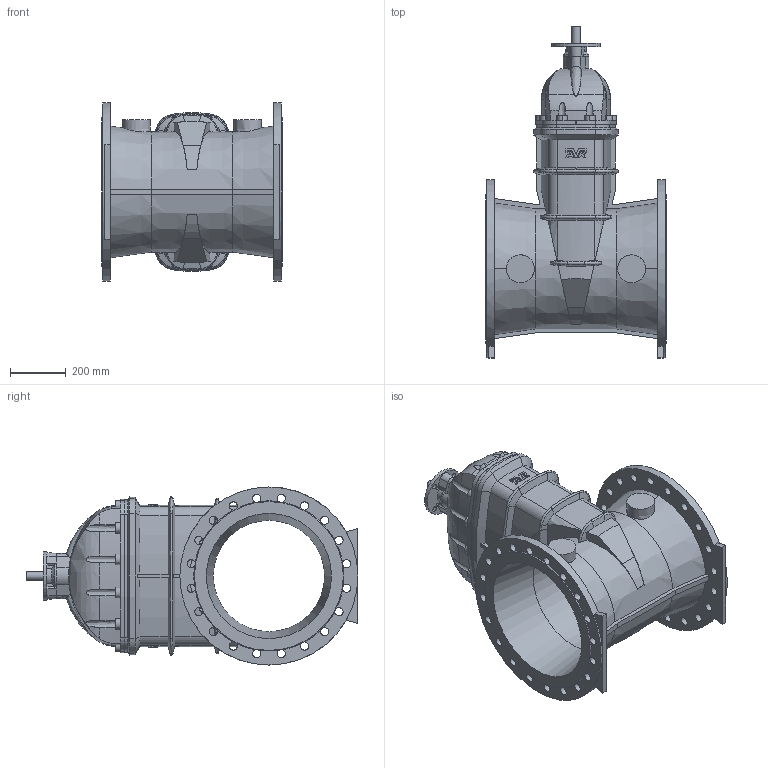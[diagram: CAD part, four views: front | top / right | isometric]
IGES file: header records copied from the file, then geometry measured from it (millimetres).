
Start section: SolidWorks IGES file using analytic representation for surfaces
Global section: file name: D:\Arthur\For Will\Finished\O_15_72_DN450 without AUMA\O_15_72_DN450_00_iges.IGS; native system: SolidWorks 2012; preprocessor: SolidWorks 2012; author: aran; date: 150608.162649; units: millimetre
Bounding box: 650 x 1193 x 640 mm (x, y, z)
Surface area: 3558610.4 mm2 (no closed solid volume)
Topology: 0 solids, 0 shells, 493 faces, 2952 edges, 2884 vertices
Faces by surface type: revolution 306, bspline 187
